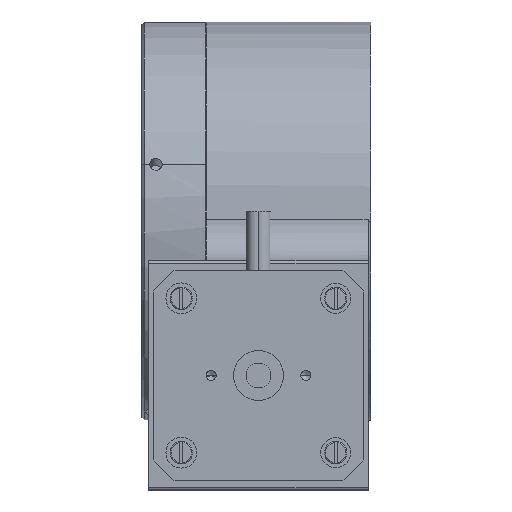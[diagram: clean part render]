
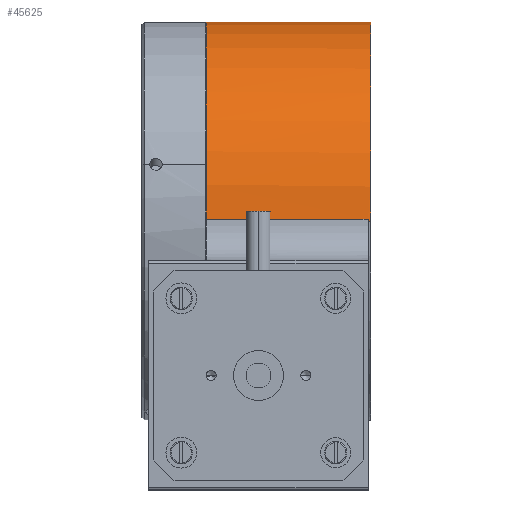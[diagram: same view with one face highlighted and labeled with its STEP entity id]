
A CAD part, left-side view. The second image highlights one B-rep face of the part: STEP entity #45625.
In plain terms, the highlighted cylindrical face has radius 40 mm (diameter 80 mm), a partial arc.
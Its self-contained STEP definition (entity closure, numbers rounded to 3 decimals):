
#62 = ORIENTED_EDGE ( 'NONE', *, *, #68215, .F. ) ;
#627 = CIRCLE ( 'NONE', #37284, 40. ) ;
#1067 = CARTESIAN_POINT ( 'NONE',  ( -40., 0., 0. ) ) ;
#4243 = LINE ( 'NONE', #6339, #45787 ) ;
#5269 = CARTESIAN_POINT ( 'NONE',  ( 0., 0., 0. ) ) ;
#6339 = CARTESIAN_POINT ( 'NONE',  ( 40., 44.5, 0. ) ) ;
#6464 = DIRECTION ( 'NONE',  ( 0., 1., 0. ) ) ;
#6690 = LINE ( 'NONE', #52348, #17692 ) ;
#6742 = CARTESIAN_POINT ( 'NONE',  ( -39.998, 44.5, 0.412 ) ) ;
#8193 = CARTESIAN_POINT ( 'NONE',  ( 40., 44.5, 0. ) ) ;
#8520 = EDGE_LOOP ( 'NONE', ( #40951, #62, #33065, #26867, #34467, #23951, #53788 ) ) ;
#10723 = DIRECTION ( 'NONE',  ( 1., 0., 0. ) ) ;
#12605 = VECTOR ( 'NONE', #66386, 1000. ) ;
#12966 = VECTOR ( 'NONE', #60720, 1000. ) ;
#14120 = CARTESIAN_POINT ( 'NONE',  ( 40., 33., 0. ) ) ;
#16275 = CIRCLE ( 'NONE', #25166, 40. ) ;
#17063 = CARTESIAN_POINT ( 'NONE',  ( -39.998, 33., 0.412 ) ) ;
#17692 = VECTOR ( 'NONE', #57747, 1000. ) ;
#20095 = EDGE_CURVE ( 'NONE', #37648, #39583, #4243, .T. ) ;
#20585 = CARTESIAN_POINT ( 'NONE',  ( 40., 0., 0. ) ) ;
#21172 = CARTESIAN_POINT ( 'NONE',  ( 0., 44.5, 0. ) ) ;
#22429 = EDGE_CURVE ( 'NONE', #23450, #33069, #6690, .T. ) ;
#23450 = VERTEX_POINT ( 'NONE', #50448 ) ;
#23951 = ORIENTED_EDGE ( 'NONE', *, *, #22429, .T. ) ;
#24376 = VERTEX_POINT ( 'NONE', #52435 ) ;
#24886 = CARTESIAN_POINT ( 'NONE',  ( 40., 0.5, 0. ) ) ;
#25166 = AXIS2_PLACEMENT_3D ( 'NONE', #27342, #65166, #32793 ) ;
#26067 = CYLINDRICAL_SURFACE ( 'NONE', #48931, 40. ) ;
#26867 = ORIENTED_EDGE ( 'NONE', *, *, #64593, .T. ) ;
#27342 = CARTESIAN_POINT ( 'NONE',  ( 0., 33., 0. ) ) ;
#32793 = DIRECTION ( 'NONE',  ( 1., 0., 0. ) ) ;
#33065 = ORIENTED_EDGE ( 'NONE', *, *, #41430, .F. ) ;
#33069 = VERTEX_POINT ( 'NONE', #1067 ) ;
#34467 = ORIENTED_EDGE ( 'NONE', *, *, #38993, .F. ) ;
#37284 = AXIS2_PLACEMENT_3D ( 'NONE', #38895, #6464, #44359 ) ;
#37354 = EDGE_CURVE ( 'NONE', #33069, #39583, #49090, .T. ) ;
#37648 = VERTEX_POINT ( 'NONE', #24886 ) ;
#38895 = CARTESIAN_POINT ( 'NONE',  ( 0., 0.5, 0. ) ) ;
#38993 = EDGE_CURVE ( 'NONE', #23450, #24376, #627, .T. ) ;
#39410 = VERTEX_POINT ( 'NONE', #17063 ) ;
#39583 = VERTEX_POINT ( 'NONE', #20585 ) ;
#39741 = LINE ( 'NONE', #8193, #12605 ) ;
#40951 = ORIENTED_EDGE ( 'NONE', *, *, #20095, .F. ) ;
#41430 = EDGE_CURVE ( 'NONE', #39410, #44255, #16275, .T. ) ;
#43157 = DIRECTION ( 'NONE',  ( 0., 1., 0. ) ) ;
#44011 = AXIS2_PLACEMENT_3D ( 'NONE', #5269, #43157, #10723 ) ;
#44255 = VERTEX_POINT ( 'NONE', #14120 ) ;
#44359 = DIRECTION ( 'NONE',  ( -1., 0., 0. ) ) ;
#45625 = ADVANCED_FACE ( 'NONE', ( #54872 ), #26067, .T. ) ;
#45787 = VECTOR ( 'NONE', #49915, 1000. ) ;
#48931 = AXIS2_PLACEMENT_3D ( 'NONE', #21172, #69675, #59049 ) ;
#49090 = CIRCLE ( 'NONE', #44011, 40. ) ;
#49915 = DIRECTION ( 'NONE',  ( 0., -1., 0. ) ) ;
#50448 = CARTESIAN_POINT ( 'NONE',  ( -40., 0.5, 0. ) ) ;
#52348 = CARTESIAN_POINT ( 'NONE',  ( -40., 44.5, 0. ) ) ;
#52435 = CARTESIAN_POINT ( 'NONE',  ( -39.998, 0.5, 0.412 ) ) ;
#53788 = ORIENTED_EDGE ( 'NONE', *, *, #37354, .T. ) ;
#54500 = LINE ( 'NONE', #6742, #12966 ) ;
#54872 = FACE_OUTER_BOUND ( 'NONE', #8520, .T. ) ;
#57747 = DIRECTION ( 'NONE',  ( 0., -1., 0. ) ) ;
#59049 = DIRECTION ( 'NONE',  ( -1., 0., 0. ) ) ;
#60720 = DIRECTION ( 'NONE',  ( 0., -1., 0. ) ) ;
#64593 = EDGE_CURVE ( 'NONE', #39410, #24376, #54500, .T. ) ;
#65166 = DIRECTION ( 'NONE',  ( 0., 1., 0. ) ) ;
#66386 = DIRECTION ( 'NONE',  ( 0., -1., 0. ) ) ;
#68215 = EDGE_CURVE ( 'NONE', #44255, #37648, #39741, .T. ) ;
#69675 = DIRECTION ( 'NONE',  ( 0., -1., 0. ) ) ;
